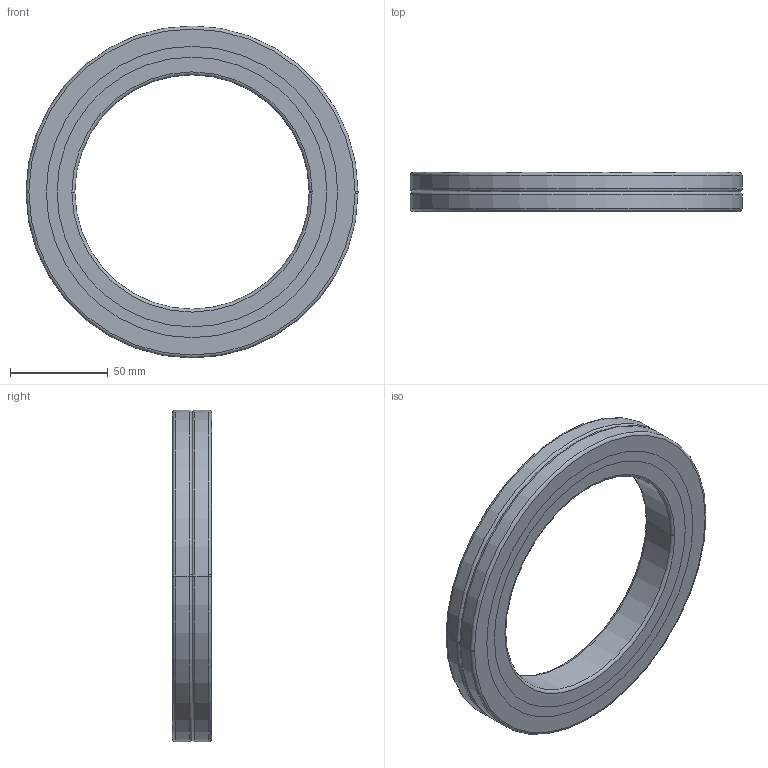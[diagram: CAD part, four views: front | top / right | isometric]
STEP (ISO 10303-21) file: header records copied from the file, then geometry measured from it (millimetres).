
FILE_DESCRIPTION(('no description'),'unknown implementation level');
FILE_NAME('CRBA12020_29.stp',' ',('HIWIN GmbH'),('CADClick - KiM GmbH - www.kimweb.de'),'unknown preprocess','ACIS','unknown authorization');
FILE_SCHEMA(('automotive_design'));
Length unit declared in the file: millimetre
Products named in the file (5): CRBA12020_1; CRBA12020_2; CRBA12020_3; CRBA12020_4; CRBA12020
Bounding box: 170 x 20 x 170 mm (x, y, z)
Volume: 186644.6 mm3; surface area: 76199.5 mm2
Topology: 5 solids, 5 shells, 54 faces, 120 edges, 76 vertices
Faces by surface type: torus 24, cylinder 20, plane 10
Entity records: 3096 total; most frequent: DIRECTION 338, STYLED_ITEM 255, PRESENTATION_STYLE_ASSIGNMENT 255, CARTESIAN_POINT 255, COLOUR_RGB 255, ORIENTED_EDGE 240, AXIS2_PLACEMENT_3D 159, EDGE_CURVE 120
